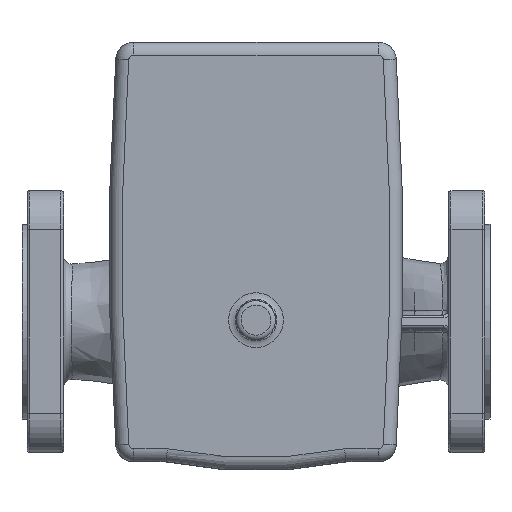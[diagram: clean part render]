
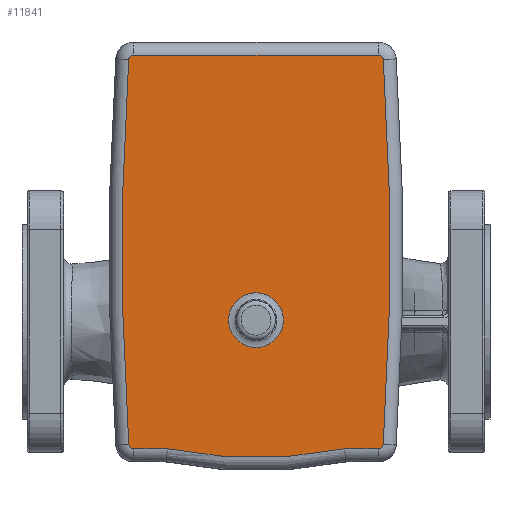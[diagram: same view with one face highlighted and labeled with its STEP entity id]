
A CAD part, top view. The second image highlights one B-rep face of the part: STEP entity #11841.
In plain terms, the highlighted planar face has unit normal (0, 0, 1).
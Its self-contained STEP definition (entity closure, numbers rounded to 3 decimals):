
#957=LINE('',#25778,#1657);
#958=LINE('',#25782,#1658);
#959=LINE('',#25790,#1659);
#1657=VECTOR('',#19395,1000.);
#1658=VECTOR('',#19398,1000.);
#1659=VECTOR('',#19405,1000.);
#2077=PLANE('',#16308);
#2764=CIRCLE('',#16309,10.521);
#2765=CIRCLE('',#16310,1.964);
#2766=CIRCLE('',#16311,169.964);
#2767=CIRCLE('',#16312,1.964);
#2768=CIRCLE('',#16313,1096.964);
#2769=CIRCLE('',#16314,1.964);
#2770=CIRCLE('',#16315,1.964);
#2771=CIRCLE('',#16316,1096.964);
#5487=ORIENTED_EDGE('',*,*,#7592,.T.);
#5488=ORIENTED_EDGE('',*,*,#7593,.T.);
#5489=ORIENTED_EDGE('',*,*,#7594,.T.);
#5490=ORIENTED_EDGE('',*,*,#7595,.T.);
#5491=ORIENTED_EDGE('',*,*,#7596,.T.);
#5492=ORIENTED_EDGE('',*,*,#7597,.T.);
#5493=ORIENTED_EDGE('',*,*,#7598,.T.);
#5494=ORIENTED_EDGE('',*,*,#7599,.T.);
#5495=ORIENTED_EDGE('',*,*,#7600,.T.);
#5496=ORIENTED_EDGE('',*,*,#7601,.T.);
#5497=ORIENTED_EDGE('',*,*,#7602,.T.);
#7592=EDGE_CURVE('',#8814,#8814,#2764,.T.);
#7593=EDGE_CURVE('',#8815,#8816,#2765,.F.);
#7594=EDGE_CURVE('',#8816,#8817,#957,.F.);
#7595=EDGE_CURVE('',#8817,#8818,#2766,.F.);
#7596=EDGE_CURVE('',#8818,#8819,#958,.F.);
#7597=EDGE_CURVE('',#8819,#8820,#2767,.F.);
#7598=EDGE_CURVE('',#8820,#8821,#2768,.F.);
#7599=EDGE_CURVE('',#8821,#8822,#2769,.F.);
#7600=EDGE_CURVE('',#8822,#8823,#959,.F.);
#7601=EDGE_CURVE('',#8823,#8824,#2770,.F.);
#7602=EDGE_CURVE('',#8824,#8815,#2771,.F.);
#8814=VERTEX_POINT('',#25774);
#8815=VERTEX_POINT('',#25776);
#8816=VERTEX_POINT('',#25777);
#8817=VERTEX_POINT('',#25779);
#8818=VERTEX_POINT('',#25781);
#8819=VERTEX_POINT('',#25783);
#8820=VERTEX_POINT('',#25785);
#8821=VERTEX_POINT('',#25787);
#8822=VERTEX_POINT('',#25789);
#8823=VERTEX_POINT('',#25791);
#8824=VERTEX_POINT('',#25793);
#10043=EDGE_LOOP('',(#5487));
#10044=EDGE_LOOP('',(#5488,#5489,#5490,#5491,#5492,#5493,#5494,#5495,#5496,
#5497));
#11011=FACE_BOUND('',#10043,.T.);
#11012=FACE_BOUND('',#10044,.T.);
#11841=ADVANCED_FACE('',(#11011,#11012),#2077,.F.);
#16308=AXIS2_PLACEMENT_3D('',#25772,#19389,#19390);
#16309=AXIS2_PLACEMENT_3D('',#25773,#19391,#19392);
#16310=AXIS2_PLACEMENT_3D('',#25775,#19393,#19394);
#16311=AXIS2_PLACEMENT_3D('',#25780,#19396,#19397);
#16312=AXIS2_PLACEMENT_3D('',#25784,#19399,#19400);
#16313=AXIS2_PLACEMENT_3D('',#25786,#19401,#19402);
#16314=AXIS2_PLACEMENT_3D('',#25788,#19403,#19404);
#16315=AXIS2_PLACEMENT_3D('',#25792,#19406,#19407);
#16316=AXIS2_PLACEMENT_3D('',#25794,#19408,#19409);
#19389=DIRECTION('',(0.,0.,-1.));
#19390=DIRECTION('',(-1.,0.,0.));
#19391=DIRECTION('',(0.,0.,-1.));
#19392=DIRECTION('',(-1.,0.,0.));
#19393=DIRECTION('',(0.,0.,-1.));
#19394=DIRECTION('',(-1.,0.,0.));
#19395=DIRECTION('',(0.,1.,0.));
#19396=DIRECTION('',(0.,0.,-1.));
#19397=DIRECTION('',(-1.,0.,0.));
#19398=DIRECTION('',(0.,1.,0.));
#19399=DIRECTION('',(0.,0.,-1.));
#19400=DIRECTION('',(-1.,0.,0.));
#19401=DIRECTION('',(0.,0.,-1.));
#19402=DIRECTION('',(-1.,0.,0.));
#19403=DIRECTION('',(0.,0.,-1.));
#19404=DIRECTION('',(-1.,0.,0.));
#19405=DIRECTION('',(0.,-1.,0.));
#19406=DIRECTION('',(0.,0.,-1.));
#19407=DIRECTION('',(-1.,0.,0.));
#19408=DIRECTION('',(0.,0.,-1.));
#19409=DIRECTION('',(-1.,0.,0.));
#25772=CARTESIAN_POINT('',(0.,0.,109.084));
#25773=CARTESIAN_POINT('',(0.,0.,109.084));
#25774=CARTESIAN_POINT('',(-10.521,0.,109.084));
#25775=CARTESIAN_POINT('',(-47.508,47.,109.084));
#25776=CARTESIAN_POINT('',(-47.64,48.96,109.084));
#25777=CARTESIAN_POINT('',(-49.472,47.,109.084));
#25778=CARTESIAN_POINT('',(-49.472,34.599,109.084));
#25779=CARTESIAN_POINT('',(-49.472,34.096,109.084));
#25780=CARTESIAN_POINT('',(117.037,0.,109.084));
#25781=CARTESIAN_POINT('',(-49.472,-34.096,109.084));
#25782=CARTESIAN_POINT('',(-49.472,-47.,109.084));
#25783=CARTESIAN_POINT('',(-49.472,-47.,109.084));
#25784=CARTESIAN_POINT('',(-47.508,-47.,109.084));
#25785=CARTESIAN_POINT('',(-47.64,-48.96,109.084));
#25786=CARTESIAN_POINT('',(26.246,1045.513,109.084));
#25787=CARTESIAN_POINT('',(100.132,-48.96,109.084));
#25788=CARTESIAN_POINT('',(100.,-47.,109.084));
#25789=CARTESIAN_POINT('',(101.964,-47.,109.084));
#25790=CARTESIAN_POINT('',(101.964,47.,109.084));
#25791=CARTESIAN_POINT('',(101.964,47.,109.084));
#25792=CARTESIAN_POINT('',(100.,47.,109.084));
#25793=CARTESIAN_POINT('',(100.132,48.96,109.084));
#25794=CARTESIAN_POINT('',(26.246,-1045.513,109.084));
